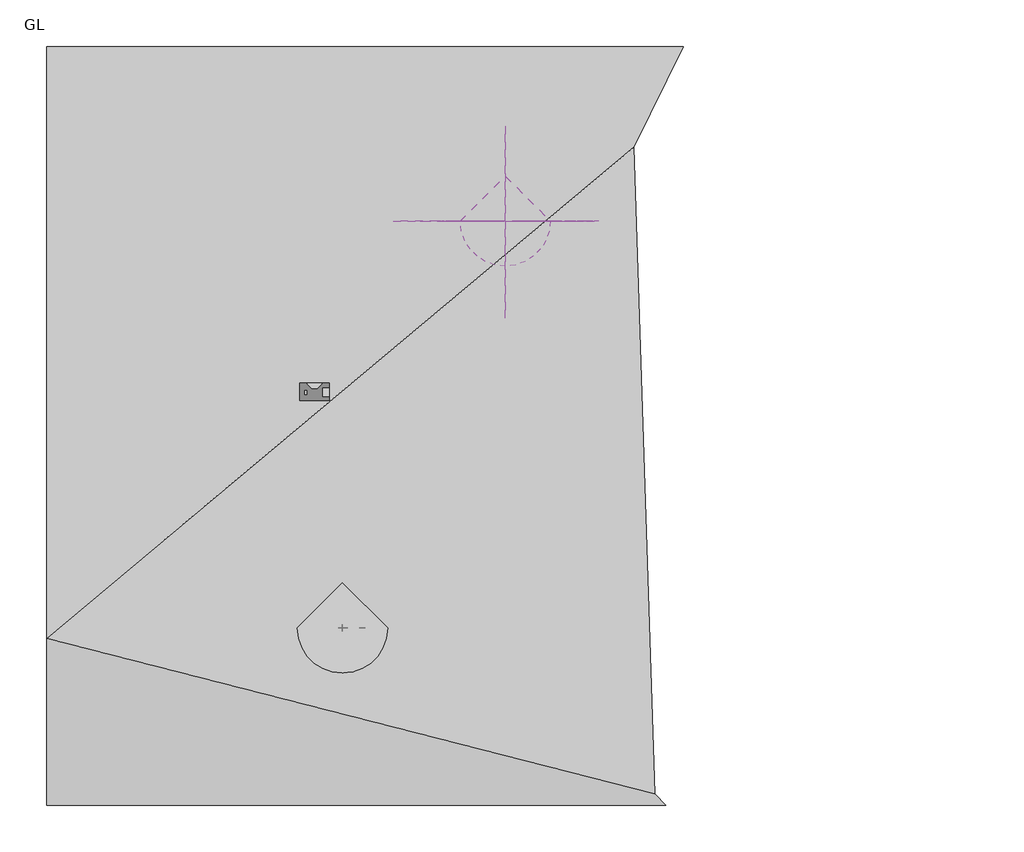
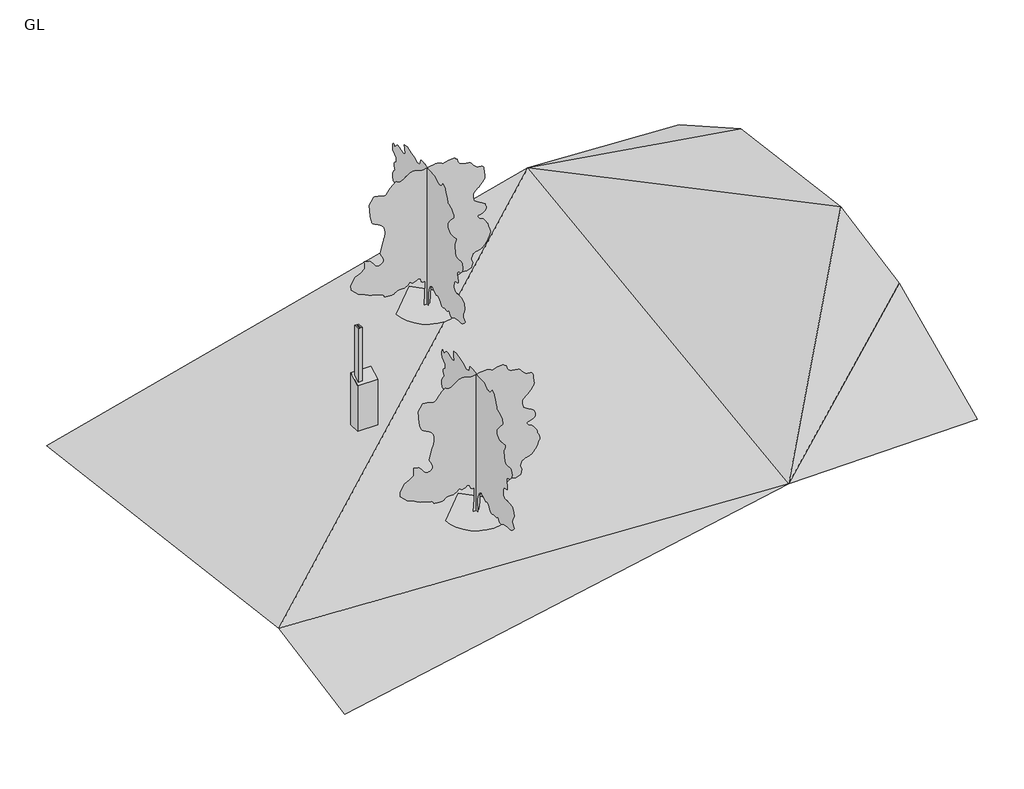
# One storey: 2 geographic elements, 1 furniture element, 1 proxy.
"""IFC4 building model written with IfcOpenShell, lengths in millimetres."""

from ifc_helpers import new_model, si_unit, origin, place, context, project, spatial, triangles, transform, mapped, element, save
from components import furniture_3b43488b, m_rpc_tree_conifer_5a218269

model = new_model("IFC4")

# Units and contexts
model_context = context("Model", 3, world=origin())
ifc_project = project(units=[si_unit("LENGTHUNIT", "METRE", prefix="MILLI")], contexts=[model_context])

# Site, building, storey
site = spatial("IfcSite", under=ifc_project)
building = spatial("IfcBuilding", under=site)
storey = spatial("IfcBuildingStorey", under=building, Name="GL", Elevation=0.0)

# Proxy
placement = place(None, origin())
element("IfcBuildingElementProxy", 1, Name="Building Element Proxy", at=placement, inside=storey, context=model_context, shape_type="Tessellation", body=[
    triangles([(33807.5643311, 29041.820343, 1736.2793392), (18230.725589, 29041.820343, 2490.9526062), (-31192.4355835, 29041.820343, -10387.0252899), (-31192.4355835, -12304.2268707, -5100.0974167), (-31192.4355835, -23958.17948, -7360.9663925), (14403.969635, -23958.17948, 1666.2060001), (33807.5643311, -23958.17948, 1912.8749554), (33807.5643311, -10037.2931488, 8208.3821091), (33807.5643311, 334.6283029, 10220.536615), (33807.5643311, 18109.4492706, 7947.6666275)], [[5, 6, 4], [3, 4, 2], [2, 4, 6], [6, 9, 2], [7, 8, 6], [10, 1, 2], [9, 10, 2], [8, 9, 6]], closed=False),
])

# Furniture
furniture_shape = furniture_3b43488b(model_context)
element("IfcFurniture", 2, ObjectType="壁爐 : 壁爐", at=placement, inside=storey, context=model_context, shape_type="MappedRepresentation", body=[
    mapped(furniture_shape, transform((-6352.569222, 8190.019613, 0.0), x_axis=(-0.9999999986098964, 5.272766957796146e-05, 0.0), y_axis=(-5.272766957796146e-05, -0.9999999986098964, 0.0), z_axis=(0.0, 0.0, 1.0))),
])

# Geographic elements
m_rpc_tree_conifer_shape = m_rpc_tree_conifer_5a218269(model_context)
element("IfcGeographicElement", 3, ObjectType="M_RPC Tree - Conifer : Colorado Spruce - 4.0 Meters", at=placement, inside=storey, context=model_context, shape_type="MappedRepresentation", body=[
    mapped(m_rpc_tree_conifer_shape, transform((837.9213427, 16848.7662115, 1200.0), x_axis=(1.0, 0.0, 0.0), y_axis=(0.0, 1.0, 0.0), z_axis=(0.0, 0.0, 1.0))),
])
element("IfcGeographicElement", 4, ObjectType="M_RPC Tree - Conifer : Colorado Spruce - 4.0 Meters", at=placement, inside=storey, context=model_context, shape_type="MappedRepresentation", body=[
    mapped(m_rpc_tree_conifer_shape, transform((-10529.8612563, -11586.1947679, 0.0), x_axis=(1.0, 0.0, 0.0), y_axis=(0.0, 1.0, 0.0), z_axis=(0.0, 0.0, 1.0))),
])

save(model, "model.ifc")
